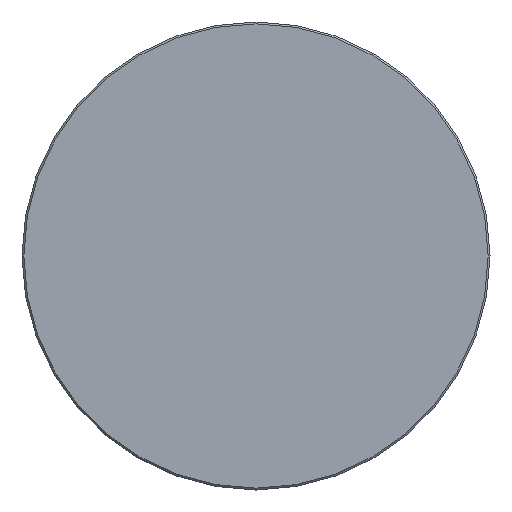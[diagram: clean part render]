
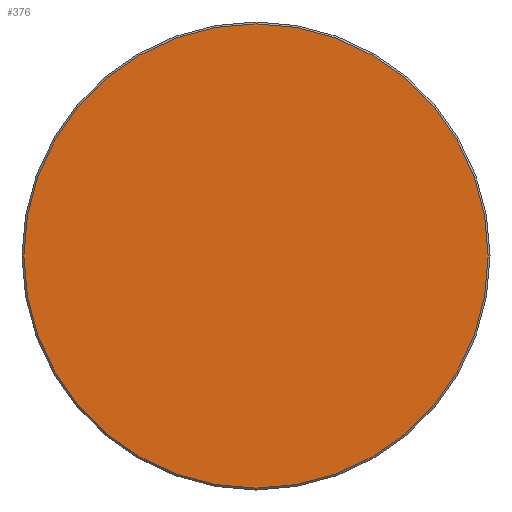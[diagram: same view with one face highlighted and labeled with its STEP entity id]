
A CAD part, left-side view. The second image highlights one B-rep face of the part: STEP entity #376.
In plain terms, the highlighted planar face has unit normal (-1, 0, 0).
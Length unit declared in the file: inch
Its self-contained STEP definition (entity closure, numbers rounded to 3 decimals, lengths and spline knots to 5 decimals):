
#4 = CARTESIAN_POINT ( 'NONE',  ( 0., 0.496, 0. ) ) ;
#5 = DIRECTION ( 'NONE',  ( 0., -1., 0. ) ) ;
#22 = CARTESIAN_POINT ( 'NONE',  ( 0., -0.496, 0. ) ) ;
#26 = DIRECTION ( 'NONE',  ( 0., -1., 0. ) ) ;
#80 = FACE_OUTER_BOUND ( 'NONE', #196, .T. ) ;
#85 = DIRECTION ( 'NONE',  ( -1., 0., 0. ) ) ;
#86 = AXIS2_PLACEMENT_3D ( 'NONE', #268, #187, #5 ) ;
#97 = VERTEX_POINT ( 'NONE', #22 ) ;
#151 = PLANE ( 'NONE',  #86 ) ;
#187 = DIRECTION ( 'NONE',  ( -1., 0., 0. ) ) ;
#196 = EDGE_LOOP ( 'NONE', ( #227, #333 ) ) ;
#220 = AXIS2_PLACEMENT_3D ( 'NONE', #336, #371, #26 ) ;
#227 = ORIENTED_EDGE ( 'NONE', *, *, #276, .T. ) ;
#234 = EDGE_CURVE ( 'NONE', #97, #339, #312, .T. ) ;
#245 = AXIS2_PLACEMENT_3D ( 'NONE', #267, #85, #316 ) ;
#267 = CARTESIAN_POINT ( 'NONE',  ( 0., 0., 0. ) ) ;
#268 = CARTESIAN_POINT ( 'NONE',  ( 0., 0., 0. ) ) ;
#272 = CIRCLE ( 'NONE', #245, 0.496 ) ;
#276 = EDGE_CURVE ( 'NONE', #339, #97, #272, .T. ) ;
#312 = CIRCLE ( 'NONE', #220, 0.496 ) ;
#316 = DIRECTION ( 'NONE',  ( 0., -1., 0. ) ) ;
#333 = ORIENTED_EDGE ( 'NONE', *, *, #234, .T. ) ;
#336 = CARTESIAN_POINT ( 'NONE',  ( 0., 0., 0. ) ) ;
#339 = VERTEX_POINT ( 'NONE', #4 ) ;
#371 = DIRECTION ( 'NONE',  ( -1., 0., 0. ) ) ;
#376 = ADVANCED_FACE ( 'NONE', ( #80 ), #151, .T. ) ;
